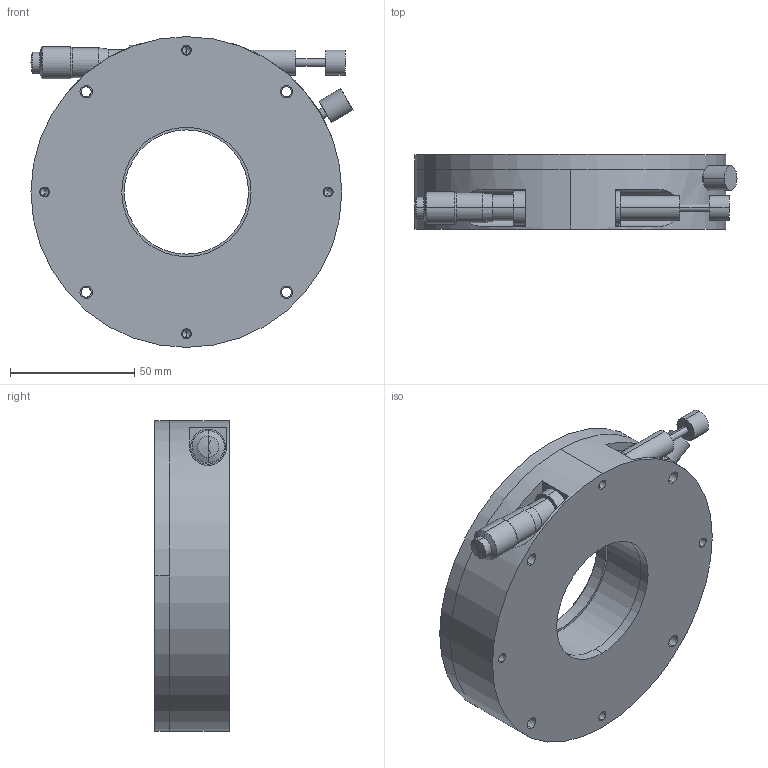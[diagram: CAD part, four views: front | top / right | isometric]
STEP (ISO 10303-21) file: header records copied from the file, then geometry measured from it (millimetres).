
FILE_DESCRIPTION (( 'STEP AP203' ), '1' );
FILE_NAME ('RS-111TR.STEP', '2024-03-26T11:11:57', ( '' ), ( '' ), 'SwSTEP 2.0', 'SolidWorks 2021', '' );
FILE_SCHEMA (( 'CONFIG_CONTROL_DESIGN' ));
Length unit declared in the file: millimetre
Products named in the file (3): RS-111TR; RS-111TR-2; RS-111TR-1
Assembly tree (2 placements, depth 2):
  RS-111TR
    RS-111TR-1
    RS-111TR-2
Bounding box: 129.52 x 30 x 125 mm (x, y, z)
Volume: 300641.6 mm3; surface area: 75777 mm2
Topology: 2 solids, 3 shells, 200 faces, 475 edges, 301 vertices
Faces by surface type: cylinder 139, plane 39, cone 22
Entity records: 6444 total; most frequent: CARTESIAN_POINT 1210, DIRECTION 1149, ORIENTED_EDGE 930, AXIS2_PLACEMENT_3D 492, EDGE_CURVE 465, VERTEX_POINT 301, CIRCLE 287, EDGE_LOOP 284
